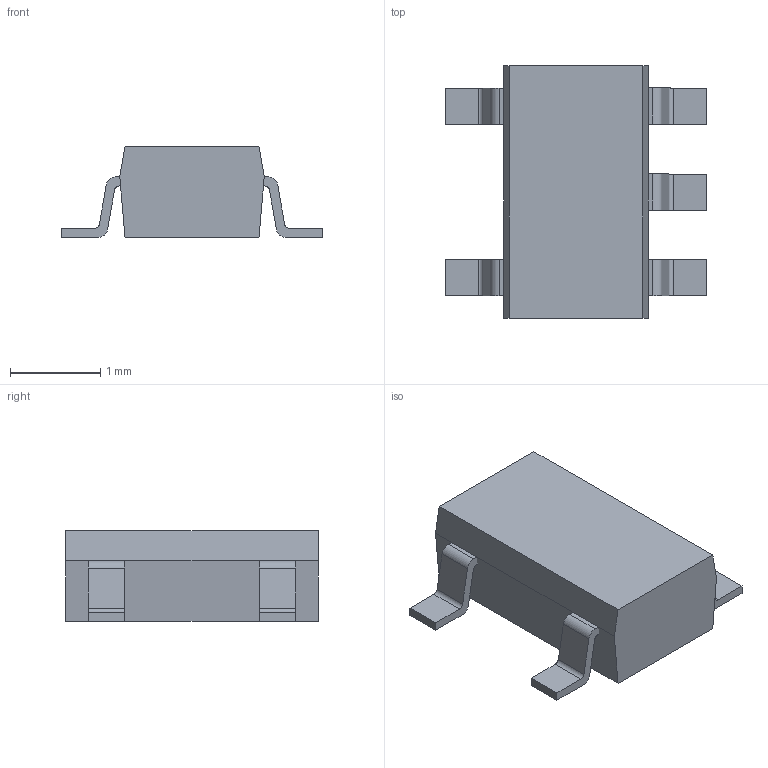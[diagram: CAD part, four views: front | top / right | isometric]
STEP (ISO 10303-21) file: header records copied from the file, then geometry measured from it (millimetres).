
FILE_DESCRIPTION(('FreeCAD Model'),'2;1');
FILE_NAME('Open CASCADE Shape Model','2025-01-29T19:02:52',( 'Krisjanis Rijnieks'),(''),'Open CASCADE STEP processor 7.7', 'FreeCAD','Unknown');
FILE_SCHEMA(('AUTOMOTIVE_DESIGN { 1 0 10303 214 1 1 1 1 }'));
Length unit declared in the file: millimetre
Products named in the file (8): TLV365DBVR; Body; Lead; LeadClones; Body002; Body003; Body004; Body005
Assembly tree (7 placements, depth 3):
  TLV365DBVR
    Body
    Lead
    LeadClones
      Body002
      Body003
      Body004
      Body005
Bounding box: 2.9 x 2.8 x 1 mm (x, y, z)
Volume: 4.7 mm3; surface area: 26.9 mm2
Topology: 6 solids, 6 shells, 78 faces, 198 edges, 132 vertices
Faces by surface type: plane 58, cylinder 20
Entity records: 2531 total; most frequent: CARTESIAN_POINT 416, DIRECTION 410, ORIENTED_EDGE 396, EDGE_CURVE 198, LINE 158, VECTOR 158, VERTEX_POINT 132, AXIS2_PLACEMENT_3D 126
